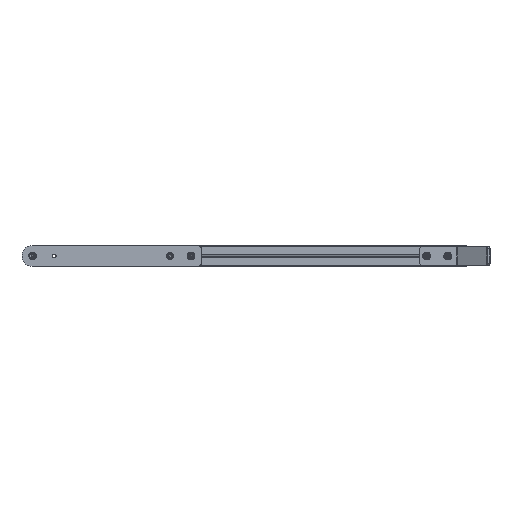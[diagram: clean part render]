
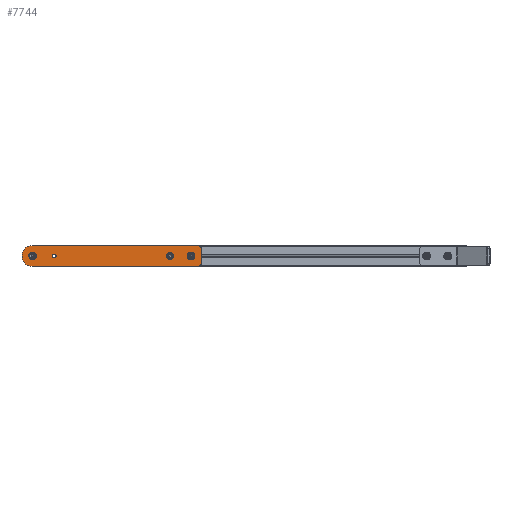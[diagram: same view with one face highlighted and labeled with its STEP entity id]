
A CAD part, left-side view. The second image highlights one B-rep face of the part: STEP entity #7744.
In plain terms, the highlighted planar face has unit normal (-1, 0, 0) as drawn and (0, 0, 1) by its records, which use the part's own axes.
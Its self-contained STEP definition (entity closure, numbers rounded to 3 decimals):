
#152 = VERTEX_POINT ( 'NONE', #6503 ) ;
#502 = CARTESIAN_POINT ( 'NONE',  ( -22.5, 0., 8. ) ) ;
#591 = DIRECTION ( 'NONE',  ( 0., 0., -1. ) ) ;
#758 = CARTESIAN_POINT ( 'NONE',  ( 4.25, 0., 8. ) ) ;
#1110 = CIRCLE ( 'NONE', #7898, 4.25 ) ;
#1111 = AXIS2_PLACEMENT_3D ( 'NONE', #11919, #591, #11700 ) ;
#1420 = CARTESIAN_POINT ( 'NONE',  ( 0., 0., 8. ) ) ;
#1484 = LINE ( 'NONE', #502, #3635 ) ;
#1503 = EDGE_LOOP ( 'NONE', ( #3193, #1554, #4263, #6700, #11956, #1998 ) ) ;
#1554 = ORIENTED_EDGE ( 'NONE', *, *, #2363, .T. ) ;
#1632 = CARTESIAN_POINT ( 'NONE',  ( 0., -337.5, 8. ) ) ;
#1659 = CARTESIAN_POINT ( 'NONE',  ( -12.5, -360., 8. ) ) ;
#1979 = EDGE_LOOP ( 'NONE', ( #3472 ) ) ;
#1998 = ORIENTED_EDGE ( 'NONE', *, *, #9490, .T. ) ;
#2070 = CIRCLE ( 'NONE', #9442, 10. ) ;
#2091 = CIRCLE ( 'NONE', #8294, 22.5 ) ;
#2342 = LINE ( 'NONE', #1659, #10039 ) ;
#2363 = EDGE_CURVE ( 'NONE', #10531, #11689, #8627, .T. ) ;
#2618 = DIRECTION ( 'NONE',  ( -1., 0., 0. ) ) ;
#2749 = DIRECTION ( 'NONE',  ( 0., 0., 1. ) ) ;
#2776 = CARTESIAN_POINT ( 'NONE',  ( 22.5, 0., 8. ) ) ;
#2808 = CARTESIAN_POINT ( 'NONE',  ( 4.25, -292.5, 8. ) ) ;
#2935 = CARTESIAN_POINT ( 'NONE',  ( 4.25, -337.5, 8. ) ) ;
#2972 = CIRCLE ( 'NONE', #10350, 4.25 ) ;
#3193 = ORIENTED_EDGE ( 'NONE', *, *, #7088, .T. ) ;
#3412 = DIRECTION ( 'NONE',  ( 0., 0., 1. ) ) ;
#3472 = ORIENTED_EDGE ( 'NONE', *, *, #8770, .F. ) ;
#3502 = FACE_BOUND ( 'NONE', #9659, .T. ) ;
#3535 = CARTESIAN_POINT ( 'NONE',  ( 12.5, -350., 8. ) ) ;
#3635 = VECTOR ( 'NONE', #9728, 1000. ) ;
#3822 = CARTESIAN_POINT ( 'NONE',  ( 0., 0., 8. ) ) ;
#3836 = AXIS2_PLACEMENT_3D ( 'NONE', #10706, #11727, #6960 ) ;
#3846 = VERTEX_POINT ( 'NONE', #2808 ) ;
#3999 = CARTESIAN_POINT ( 'NONE',  ( 12.5, -360., 8. ) ) ;
#4056 = CARTESIAN_POINT ( 'NONE',  ( 0., -292.5, 8. ) ) ;
#4140 = DIRECTION ( 'NONE',  ( -1., 0., 0. ) ) ;
#4263 = ORIENTED_EDGE ( 'NONE', *, *, #8786, .T. ) ;
#4352 = FACE_BOUND ( 'NONE', #4834, .T. ) ;
#4357 = CARTESIAN_POINT ( 'NONE',  ( -22.5, -350., 8. ) ) ;
#4506 = CARTESIAN_POINT ( 'NONE',  ( -12.5, -350., 8. ) ) ;
#4615 = CIRCLE ( 'NONE', #3836, 4.25 ) ;
#4834 = EDGE_LOOP ( 'NONE', ( #10543 ) ) ;
#4891 = VERTEX_POINT ( 'NONE', #6580 ) ;
#5270 = FACE_BOUND ( 'NONE', #5695, .T. ) ;
#5306 = ORIENTED_EDGE ( 'NONE', *, *, #10857, .F. ) ;
#5404 = DIRECTION ( 'NONE',  ( 1., 0., 0. ) ) ;
#5695 = EDGE_LOOP ( 'NONE', ( #5306 ) ) ;
#5853 = DIRECTION ( 'NONE',  ( 0., 1., 0. ) ) ;
#5888 = CIRCLE ( 'NONE', #10723, 4.25 ) ;
#5981 = EDGE_CURVE ( 'NONE', #8045, #8045, #2972, .T. ) ;
#6132 = DIRECTION ( 'NONE',  ( 0., 0., 1. ) ) ;
#6237 = DIRECTION ( 'NONE',  ( 1., 0., 0. ) ) ;
#6481 = VERTEX_POINT ( 'NONE', #2935 ) ;
#6503 = CARTESIAN_POINT ( 'NONE',  ( -12.5, -360., 8. ) ) ;
#6580 = CARTESIAN_POINT ( 'NONE',  ( -22.5, 0., 8. ) ) ;
#6604 = VERTEX_POINT ( 'NONE', #4357 ) ;
#6700 = ORIENTED_EDGE ( 'NONE', *, *, #6948, .T. ) ;
#6948 = EDGE_CURVE ( 'NONE', #4891, #6604, #1484, .T. ) ;
#6960 = DIRECTION ( 'NONE',  ( 1., 0., 0. ) ) ;
#7088 = EDGE_CURVE ( 'NONE', #11585, #10531, #2070, .T. ) ;
#7244 = DIRECTION ( 'NONE',  ( 0., 0., 1. ) ) ;
#7329 = FACE_OUTER_BOUND ( 'NONE', #1503, .T. ) ;
#7381 = VERTEX_POINT ( 'NONE', #11074 ) ;
#7708 = AXIS2_PLACEMENT_3D ( 'NONE', #4506, #2749, #8151 ) ;
#7744 = ADVANCED_FACE ( 'NONE', ( #3502, #5270, #8966, #4352, #7329 ), #8166, .F. ) ;
#7898 = AXIS2_PLACEMENT_3D ( 'NONE', #1632, #10918, #5404 ) ;
#8045 = VERTEX_POINT ( 'NONE', #758 ) ;
#8088 = CIRCLE ( 'NONE', #7708, 10. ) ;
#8151 = DIRECTION ( 'NONE',  ( 1., 0., 0. ) ) ;
#8166 = PLANE ( 'NONE',  #1111 ) ;
#8187 = CARTESIAN_POINT ( 'NONE',  ( 22.5, -350., 8. ) ) ;
#8294 = AXIS2_PLACEMENT_3D ( 'NONE', #1420, #3412, #4140 ) ;
#8311 = DIRECTION ( 'NONE',  ( 1., 0., 0. ) ) ;
#8535 = EDGE_CURVE ( 'NONE', #6604, #152, #8088, .T. ) ;
#8627 = LINE ( 'NONE', #11612, #9061 ) ;
#8770 = EDGE_CURVE ( 'NONE', #7381, #7381, #4615, .T. ) ;
#8786 = EDGE_CURVE ( 'NONE', #11689, #4891, #2091, .T. ) ;
#8918 = DIRECTION ( 'NONE',  ( 1., 0., 0. ) ) ;
#8966 = FACE_BOUND ( 'NONE', #1979, .T. ) ;
#9061 = VECTOR ( 'NONE', #5853, 1000. ) ;
#9162 = EDGE_CURVE ( 'NONE', #6481, #6481, #1110, .T. ) ;
#9293 = DIRECTION ( 'NONE',  ( 0., 0., 1. ) ) ;
#9442 = AXIS2_PLACEMENT_3D ( 'NONE', #3535, #7244, #2618 ) ;
#9490 = EDGE_CURVE ( 'NONE', #152, #11585, #2342, .T. ) ;
#9659 = EDGE_LOOP ( 'NONE', ( #11745 ) ) ;
#9728 = DIRECTION ( 'NONE',  ( 0., -1., 0. ) ) ;
#10039 = VECTOR ( 'NONE', #6237, 1000. ) ;
#10350 = AXIS2_PLACEMENT_3D ( 'NONE', #3822, #9293, #8311 ) ;
#10531 = VERTEX_POINT ( 'NONE', #8187 ) ;
#10543 = ORIENTED_EDGE ( 'NONE', *, *, #5981, .F. ) ;
#10706 = CARTESIAN_POINT ( 'NONE',  ( 0., -46., 8. ) ) ;
#10723 = AXIS2_PLACEMENT_3D ( 'NONE', #4056, #6132, #8918 ) ;
#10857 = EDGE_CURVE ( 'NONE', #3846, #3846, #5888, .T. ) ;
#10918 = DIRECTION ( 'NONE',  ( 0., 0., 1. ) ) ;
#11074 = CARTESIAN_POINT ( 'NONE',  ( 4.25, -46., 8. ) ) ;
#11585 = VERTEX_POINT ( 'NONE', #3999 ) ;
#11612 = CARTESIAN_POINT ( 'NONE',  ( 22.5, 0., 8. ) ) ;
#11689 = VERTEX_POINT ( 'NONE', #2776 ) ;
#11700 = DIRECTION ( 'NONE',  ( -1., 0., 0. ) ) ;
#11727 = DIRECTION ( 'NONE',  ( 0., 0., 1. ) ) ;
#11745 = ORIENTED_EDGE ( 'NONE', *, *, #9162, .F. ) ;
#11919 = CARTESIAN_POINT ( 'NONE',  ( 12.5, -350., 8. ) ) ;
#11956 = ORIENTED_EDGE ( 'NONE', *, *, #8535, .T. ) ;
